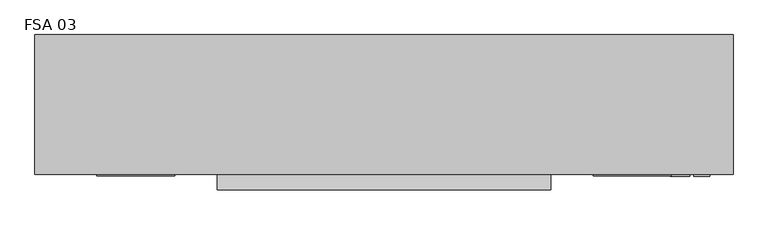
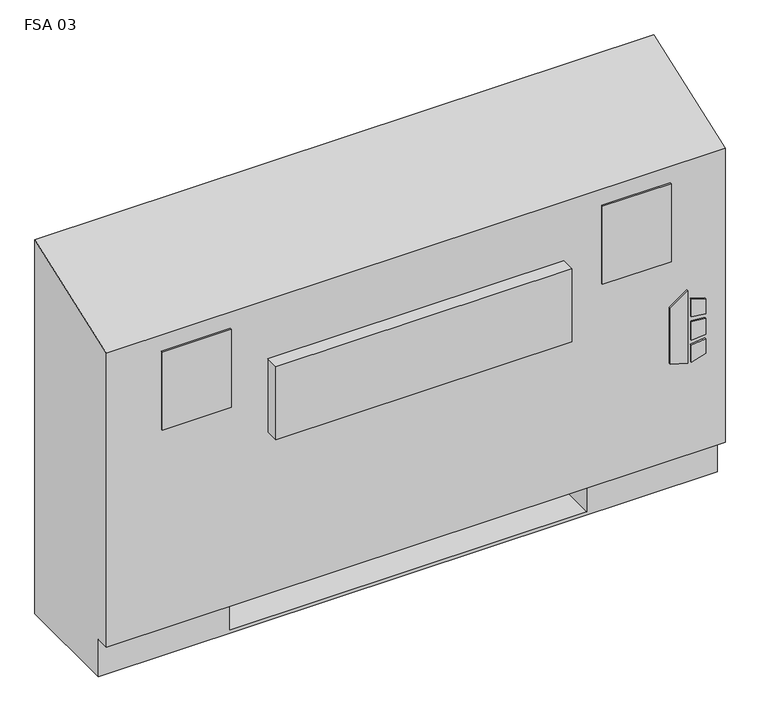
"""IFC4 building model written with IfcOpenShell, lengths in millimetres: proxy geometry, Vertical_Fan_Coil_Unit_-_FSA_-_IEC_-_4-Pipe_FS-FR_LH_2022 : FSA 03."""

from ifc_helpers import new_model, si_unit, point, frame, frame_2d, origin, place, context, project, spatial, polyline, circle_curve, trimmed, segment, composite_curve, outline, extrude, source, transform, mapped, element, save
from ifc_brep_helpers import plane_surface, revolved_surface, advanced_brep


def fsa_03_30d9e35f(model_context):
    return source(origin(), model_context, "Body", "SolidModel", [
        extrude(outline(polyline([(263.9480703, 620.7868862), (254.0, 652.9602728), (396.1709244, 652.9602728), (373.1489183, 620.7868862), (263.9480703, 620.7868862)])), frame((0.0, 12.7, 0.0), z_axis=(0.0, 1.0, 0.0), x_axis=(0.0, 0.0, 1.0)), (0.0, 0.0, 1.0), 3.175),
        extrude(outline(polyline([(342.9473557, 659.7186058), (339.7449632, 685.8), (368.9738042, 685.8), (377.0382193, 659.7186058), (342.9473557, 659.7186058)])), frame((0.0, 12.7, 0.0), z_axis=(0.0, 1.0, 0.0), x_axis=(0.0, 0.0, 1.0)), (0.0, 0.0, 1.0), 3.175),
        extrude(outline(polyline([(291.0838288, 685.8), (287.4183279, 659.7186058), (254.0, 659.7186058), (262.6342372, 685.8), (291.0838288, 685.8)])), frame((0.0, 12.7, 0.0), z_axis=(0.0, 1.0, 0.0), x_axis=(0.0, 0.0, 1.0)), (0.0, 0.0, 1.0), 3.175),
        extrude(outline(polyline([(330.3989903, 685.8), (332.6808166, 659.7186058), (296.7432681, 659.7186058), (299.4845331, 685.8), (330.3989903, 685.8)])), frame((0.0, 12.7, 0.0), z_axis=(0.0, 1.0, 0.0), x_axis=(0.0, 0.0, 1.0)), (0.0, 0.0, 1.0), 3.175),
        extrude(outline(polyline([(603.25, 223.266), (603.25, 81.534), (482.6, 81.534), (482.6, 223.266), (603.25, 223.266)])), frame((0.0, 0.0, 327.025), z_axis=(0.0, 0.0, 1.0), x_axis=(1.0, 0.0, 0.0)), (0.0, 0.0, 1.0), 260.35),
        extrude(outline(polyline([(-190.5, 12.7), (-317.5, 12.7), (-317.5, 15.875), (-190.5, 15.875), (-190.5, 12.7)])), frame((0.0, 0.0, 463.55), z_axis=(0.0, 0.0, 1.0), x_axis=(1.0, 0.0, 0.0)), (0.0, 0.0, 1.0), 152.4),
        extrude(outline(polyline([(622.3, 12.7), (495.3, 12.7), (495.3, 15.875), (622.3, 15.875), (622.3, 12.7)])), frame((0.0, 0.0, 463.55), z_axis=(0.0, 0.0, 1.0), x_axis=(1.0, 0.0, 0.0)), (0.0, 0.0, 1.0), 152.4),
        extrude(outline(composite_curve([segment(trimmed(circle_curve(frame_2d((-241.3, 130.175)), 9.525), [point((-250.825, 130.175))], [point((-231.775, 130.175))], False, "CARTESIAN"), True, "CONTINUOUS"), segment(trimmed(circle_curve(frame_2d((-241.3, 130.175)), 9.525), [point((-231.775, 130.175))], [point((-250.825, 130.175))], False, "CARTESIAN"), True, "CONTINUOUS")], self_intersect=False)), frame((0.0, 0.0, 101.6), z_axis=(0.0, 0.0, 1.0), x_axis=(1.0, 0.0, 0.0)), (0.0, 0.0, 1.0), 25.4),
        extrude(outline(polyline([(-342.9, 63.5), (-342.9, 196.85), (-177.8, 196.85), (-177.8, 63.5), (-342.9, 63.5)])), frame((0.0, 0.0, 127.0), z_axis=(0.0, 0.0, 1.0), x_axis=(1.0, 0.0, 0.0)), (0.0, 0.0, 1.0), 50.8),
        extrude(outline(polyline([(425.45, -9.525), (-120.65, -9.525), (-120.65, 15.875), (425.45, 15.875), (425.45, -9.525)])), frame((0.0, 0.0, 389.3009245), z_axis=(0.0, 0.0, 1.0), x_axis=(1.0, 0.0, 0.0)), (0.0, 0.0, 1.0), 142.875),
        extrude(outline(composite_curve([segment(trimmed(circle_curve(frame_2d((117.475, 472.44)), 7.9375), [point((117.475, 480.3775))], [point((117.475, 464.5025))], False, "CARTESIAN"), True, "CONTINUOUS"), segment(trimmed(circle_curve(frame_2d((117.475, 472.44)), 7.9375), [point((117.475, 464.5025))], [point((117.475, 480.3775))], False, "CARTESIAN"), True, "CONTINUOUS")], self_intersect=False)), frame((-228.6, 0.0, 0.0), z_axis=(1.0, 0.0, 0.0), x_axis=(0.0, 1.0, 0.0)), (0.0, 0.0, 1.0), 50.8),
        extrude(outline(composite_curve([segment(trimmed(circle_curve(frame_2d((164.0586, 445.897)), 7.9375), [point((164.0586, 453.8345))], [point((164.0586, 437.9595))], False, "CARTESIAN"), True, "CONTINUOUS"), segment(trimmed(circle_curve(frame_2d((164.0586, 445.897)), 7.9375), [point((164.0586, 437.9595))], [point((164.0586, 453.8345))], False, "CARTESIAN"), True, "CONTINUOUS")], self_intersect=False)), frame((-228.6, 0.0, 0.0), z_axis=(1.0, 0.0, 0.0), x_axis=(0.0, 1.0, 0.0)), (0.0, 0.0, 1.0), 50.8),
        extrude(outline(composite_curve([segment(trimmed(circle_curve(frame_2d((53.975, 416.56)), 7.9502), [point((53.975, 424.5102))], [point((53.975, 408.6098))], False, "CARTESIAN"), True, "CONTINUOUS"), segment(trimmed(circle_curve(frame_2d((53.975, 416.56)), 7.9502), [point((53.975, 408.6098))], [point((53.975, 424.5102))], False, "CARTESIAN"), True, "CONTINUOUS")], self_intersect=False)), frame((-228.6, 0.0, 0.0), z_axis=(1.0, 0.0, 0.0), x_axis=(0.0, 1.0, 0.0)), (0.0, 0.0, 1.0), 50.8),
        extrude(outline(composite_curve([segment(trimmed(circle_curve(frame_2d((130.175, 554.99)), 7.9502), [point((130.175, 562.9402))], [point((130.175, 547.0398))], False, "CARTESIAN"), True, "CONTINUOUS"), segment(trimmed(circle_curve(frame_2d((130.175, 554.99)), 7.9502), [point((130.175, 547.0398))], [point((130.175, 562.9402))], False, "CARTESIAN"), True, "CONTINUOUS")], self_intersect=False)), frame((-228.6, 0.0, 0.0), z_axis=(1.0, 0.0, 0.0), x_axis=(0.0, 1.0, 0.0)), (0.0, 0.0, 1.0), 50.8),
        advanced_brep(
        [(-419.1, 244.475, 0.0), (723.9, 244.475, 0.0), (723.9, 41.275, 0.0), (-419.1, 41.275, 0.0), (-419.1, 244.475, 730.25), (723.9, 244.475, 730.25), (482.6, 244.475, 73.025), (711.2, 244.475, 73.025), (711.2, 244.475, 654.05), (482.6, 244.475, 654.05), (482.6, 244.475, 414.8650565), (511.175, 244.475, 414.8650565), (511.175, 244.475, 385.2349435), (482.6, 244.475, 385.2349435), (482.6, 244.475, 287.3375), (511.175, 244.475, 287.3375), (511.175, 244.475, 258.7625), (482.6, 244.475, 258.7625), (482.6, 244.475, 141.2875), (511.175, 244.475, 141.2875), (511.175, 244.475, 112.7125), (482.6, 244.475, 112.7125), (-177.8, 244.475, 654.05), (-406.4, 244.475, 654.05), (-406.4, 244.475, 73.025), (-177.8, 244.475, 73.025), (-177.8, 244.475, 112.7125), (-206.375, 244.475, 112.7125), (-206.375, 244.475, 141.2875), (-177.8, 244.475, 141.2875), (-177.8, 244.475, 258.7625), (-206.375, 244.475, 258.7625), (-206.375, 244.475, 287.3375), (-177.8, 244.475, 287.3375), (-177.8, 244.475, 385.2349435), (-206.375, 244.475, 385.2349435), (-206.375, 244.475, 414.8650565), (-177.8, 244.475, 414.8650565), (500.8626, 244.475, 127.0), (489.7374, 244.475, 127.0), (500.8626, 244.475, 400.05), (489.7374, 244.475, 400.05), (500.8626, 244.475, 273.05), (489.7374, 244.475, 273.05), (-184.9374, 244.475, 127.0), (-196.0626, 244.475, 127.0), (-184.9374, 244.475, 273.05), (-196.0626, 244.475, 273.05), (-184.9374, 244.475, 400.05), (-196.0626, 244.475, 400.05), (-419.1, 41.275, 73.025), (-419.1, 15.875, 73.025), (-419.1, 15.875, 647.7), (723.9, 15.875, 73.025), (723.9, 15.875, 647.7), (723.9, 41.275, 73.025), (-177.8, 41.275, 73.025), (-177.8, 225.425, 73.025), (482.6, 225.425, 73.025), (482.6, 41.275, 73.025), (482.6, 41.275, 6.35), (-177.8, 41.275, 6.35), (482.6, 41.275, 654.05), (711.2, 41.275, 654.05), (711.2, 41.275, 73.025), (482.6, 41.275, 73.025), (-177.8, 41.275, 654.05), (-177.8, 41.275, 73.025), (-406.4, 41.275, 73.025), (-406.4, 41.275, 654.05), (482.6, 225.425, 73.025), (482.6, 238.125, 112.7125), (482.6, 238.125, 141.2875), (482.6, 238.125, 258.7625), (482.6, 238.125, 287.3375), (482.6, 238.125, 385.2349435), (482.6, 238.125, 414.8650565), (-177.8, 225.425, 73.025), (-177.8, 238.125, 414.8650565), (-177.8, 238.125, 385.2349435), (-177.8, 238.125, 287.3375), (-177.8, 238.125, 258.7625), (-177.8, 238.125, 141.2875), (-177.8, 238.125, 112.7125), (-177.8, 225.425, 6.35), (482.6, 225.425, 6.35), (511.175, 238.125, 112.7125), (511.175, 238.125, 141.2875), (489.7374, 238.125, 127.0), (500.8626, 238.125, 127.0), (511.175, 238.125, 258.7625), (511.175, 238.125, 287.3375), (489.7374, 238.125, 273.05), (500.8626, 238.125, 273.05), (511.175, 238.125, 385.2349435), (511.175, 238.125, 414.8650565), (489.7374, 238.125, 400.05), (500.8626, 238.125, 400.05), (-206.375, 238.125, 141.2875), (-206.375, 238.125, 112.7125), (-196.0626, 238.125, 127.0), (-184.9374, 238.125, 127.0), (-206.375, 238.125, 287.3375), (-206.375, 238.125, 258.7625), (-196.0626, 238.125, 273.05), (-184.9374, 238.125, 273.05), (-206.375, 238.125, 414.8650565), (-206.375, 238.125, 385.2349435), (-196.0626, 238.125, 400.05), (-184.9374, 238.125, 400.05)],
        [
            (0, 1),
            (1, 2),
            (2, 3),
            (3, 0),
            (0, 4),
            (4, 5),
            (5, 1),
            (6, 7),
            (7, 8),
            (8, 9),
            (9, 10),
            (10, 11),
            (11, 12),
            (12, 13),
            (13, 14),
            (14, 15),
            (15, 16),
            (16, 17),
            (17, 18),
            (18, 19),
            (19, 20),
            (20, 21),
            (21, 6),
            (22, 23),
            (23, 24),
            (24, 25),
            (25, 26),
            (26, 27),
            (27, 28),
            (28, 29),
            (29, 30),
            (30, 31),
            (31, 32),
            (32, 33),
            (33, 34),
            (34, 35),
            (35, 36),
            (36, 37),
            (37, 22),
            (38, 39, circle_curve(frame((495.3, 244.475, 127.0), z_axis=(0.0, -1.0, 0.0), x_axis=(-1.0, 0.0, 0.0)), 5.5626)),
            (39, 38, circle_curve(frame((495.3, 244.475, 127.0), z_axis=(0.0, -1.0, 0.0), x_axis=(-1.0, 0.0, 0.0)), 5.5626)),
            (40, 41, circle_curve(frame((495.3, 244.475, 400.05), z_axis=(0.0, -1.0, 0.0), x_axis=(-1.0, 0.0, 0.0)), 5.5626)),
            (41, 40, circle_curve(frame((495.3, 244.475, 400.05), z_axis=(0.0, -1.0, 0.0), x_axis=(-1.0, 0.0, 0.0)), 5.5626)),
            (42, 43, circle_curve(frame((495.3, 244.475, 273.05), z_axis=(0.0, -1.0, 0.0), x_axis=(-1.0, 0.0, 0.0)), 5.5626)),
            (43, 42, circle_curve(frame((495.3, 244.475, 273.05), z_axis=(0.0, -1.0, 0.0), x_axis=(-1.0, 0.0, 0.0)), 5.5626)),
            (44, 45, circle_curve(frame((-190.5, 244.475, 127.0), z_axis=(0.0, -1.0, 0.0), x_axis=(-1.0, 0.0, 0.0)), 5.5626)),
            (45, 44, circle_curve(frame((-190.5, 244.475, 127.0), z_axis=(0.0, -1.0, 0.0), x_axis=(-1.0, 0.0, 0.0)), 5.5626)),
            (46, 47, circle_curve(frame((-190.5, 244.475, 273.05), z_axis=(0.0, -1.0, 0.0), x_axis=(-1.0, 0.0, 0.0)), 5.5626)),
            (47, 46, circle_curve(frame((-190.5, 244.475, 273.05), z_axis=(0.0, -1.0, 0.0), x_axis=(-1.0, 0.0, 0.0)), 5.5626)),
            (48, 49, circle_curve(frame((-190.5, 244.475, 400.05), z_axis=(0.0, -1.0, 0.0), x_axis=(-1.0, 0.0, 0.0)), 5.5626)),
            (49, 48, circle_curve(frame((-190.5, 244.475, 400.05), z_axis=(0.0, -1.0, 0.0), x_axis=(-1.0, 0.0, 0.0)), 5.5626)),
            (3, 50),
            (50, 51),
            (51, 52),
            (52, 4),
            (51, 53),
            (53, 54),
            (54, 52),
            (5, 54),
            (53, 55),
            (55, 2),
            (50, 56),
            (56, 57),
            (57, 58),
            (58, 59),
            (59, 55),
            (59, 60),
            (60, 61),
            (61, 56),
            (62, 63),
            (63, 64),
            (64, 65),
            (65, 62),
            (66, 67),
            (67, 68),
            (68, 69),
            (69, 66),
            (65, 70),
            (70, 6),
            (21, 71),
            (71, 72),
            (72, 18),
            (17, 73),
            (73, 74),
            (74, 14),
            (13, 75),
            (75, 76),
            (76, 10),
            (9, 62),
            (64, 7),
            (63, 8),
            (69, 23),
            (22, 66),
            (68, 24),
            (67, 77),
            (77, 25),
            (37, 78),
            (78, 79),
            (79, 34),
            (33, 80),
            (80, 81),
            (81, 30),
            (29, 82),
            (82, 83),
            (83, 26),
            (57, 84),
            (84, 85),
            (85, 58),
            (85, 60),
            (84, 61),
            (71, 86),
            (86, 87),
            (87, 72),
            (88, 89, circle_curve(frame((495.3, 238.125, 127.0), z_axis=(0.0, 1.0, 0.0), x_axis=(-1.0, 0.0, 0.0)), 5.5626)),
            (89, 88, circle_curve(frame((495.3, 238.125, 127.0), z_axis=(0.0, 1.0, 0.0), x_axis=(-1.0, 0.0, 0.0)), 5.5626)),
            (73, 90),
            (90, 91),
            (91, 74),
            (92, 93, circle_curve(frame((495.3, 238.125, 273.05), z_axis=(0.0, 1.0, 0.0), x_axis=(-1.0, 0.0, 0.0)), 5.5626)),
            (93, 92, circle_curve(frame((495.3, 238.125, 273.05), z_axis=(0.0, 1.0, 0.0), x_axis=(-1.0, 0.0, 0.0)), 5.5626)),
            (75, 94),
            (94, 95),
            (95, 76),
            (96, 97, circle_curve(frame((495.3, 238.125, 400.05), z_axis=(0.0, 1.0, 0.0), x_axis=(-1.0, 0.0, 0.0)), 5.5626)),
            (97, 96, circle_curve(frame((495.3, 238.125, 400.05), z_axis=(0.0, 1.0, 0.0), x_axis=(-1.0, 0.0, 0.0)), 5.5626)),
            (98, 99),
            (99, 83),
            (82, 98),
            (100, 101, circle_curve(frame((-190.5, 238.125, 127.0), z_axis=(0.0, 1.0, 0.0), x_axis=(-1.0, 0.0, 0.0)), 5.5626)),
            (101, 100, circle_curve(frame((-190.5, 238.125, 127.0), z_axis=(0.0, 1.0, 0.0), x_axis=(-1.0, 0.0, 0.0)), 5.5626)),
            (102, 103),
            (103, 81),
            (80, 102),
            (104, 105, circle_curve(frame((-190.5, 238.125, 273.05), z_axis=(0.0, 1.0, 0.0), x_axis=(-1.0, 0.0, 0.0)), 5.5626)),
            (105, 104, circle_curve(frame((-190.5, 238.125, 273.05), z_axis=(0.0, 1.0, 0.0), x_axis=(-1.0, 0.0, 0.0)), 5.5626)),
            (106, 107),
            (107, 79),
            (78, 106),
            (108, 109, circle_curve(frame((-190.5, 238.125, 400.05), z_axis=(0.0, 1.0, 0.0), x_axis=(-1.0, 0.0, 0.0)), 5.5626)),
            (109, 108, circle_curve(frame((-190.5, 238.125, 400.05), z_axis=(0.0, 1.0, 0.0), x_axis=(-1.0, 0.0, 0.0)), 5.5626)),
            (87, 19),
            (86, 20),
            (91, 15),
            (90, 16),
            (95, 11),
            (94, 12),
            (28, 98),
            (99, 27),
            (32, 102),
            (103, 31),
            (36, 106),
            (107, 35),
            (88, 39),
            (38, 89),
            (96, 41),
            (40, 97),
            (92, 43),
            (42, 93),
            (100, 45),
            (44, 101),
            (104, 47),
            (46, 105),
            (108, 49),
            (48, 109),
        ],
        [
            plane_surface(frame((-419.1, 244.475, 0.0), z_axis=(0.0, 0.0, -1.0), x_axis=(1.0, 0.0, 0.0))),
            plane_surface(frame((723.9, 244.475, 730.25), z_axis=(0.0, 1.0, 0.0), x_axis=(0.0, 0.0, -1.0))),
            plane_surface(frame((-419.1, 244.475, 730.25), z_axis=(-1.0, 0.0, 0.0), x_axis=(0.0, 0.0, -1.0))),
            plane_surface(frame((-419.1, 15.875, 730.25), z_axis=(0.0, -1.0, 0.0), x_axis=(0.0, 0.0, -1.0))),
            plane_surface(frame((723.9, 15.875, 730.25), z_axis=(1.0, 0.0, 0.0), x_axis=(0.0, 0.0, -1.0))),
            plane_surface(frame((-419.1, 15.875, 73.025), z_axis=(0.0, 0.0, -1.0), x_axis=(1.0, 0.0, 0.0))),
            plane_surface(frame((-419.1, 41.275, 73.025), z_axis=(0.0, -1.0, 0.0), x_axis=(1.0, 0.0, 0.0))),
            plane_surface(frame((482.6, 41.275, 654.05), z_axis=(0.0, 1.0, 0.0), x_axis=(0.0, 0.0, -1.0))),
            plane_surface(frame((482.6, 41.275, 654.05), z_axis=(1.0, 0.0, 0.0), x_axis=(0.0, 1.0, 0.0))),
            plane_surface(frame((482.6, 41.275, 73.025), z_axis=(0.0, 0.0, 1.0), x_axis=(0.0, 1.0, 0.0))),
            plane_surface(frame((711.2, 41.275, 73.025), z_axis=(-1.0, 0.0, 0.0), x_axis=(0.0, 1.0, 0.0))),
            plane_surface(frame((711.2, 41.275, 654.05), z_axis=(0.0, 0.0, -1.0), x_axis=(0.0, 1.0, 0.0))),
            plane_surface(frame((-177.8, 41.275, 654.05), z_axis=(0.0, 0.0, -1.0), x_axis=(0.0, 1.0, 0.0))),
            plane_surface(frame((-406.4, 41.275, 654.05), z_axis=(1.0, 0.0, 0.0), x_axis=(0.0, 1.0, 0.0))),
            plane_surface(frame((-406.4, 41.275, 73.025), z_axis=(0.0, 0.0, 1.0), x_axis=(0.0, 1.0, 0.0))),
            plane_surface(frame((-177.8, 41.275, 73.025), z_axis=(-1.0, 0.0, 0.0), x_axis=(0.0, 1.0, 0.0))),
            plane_surface(frame((482.6, 225.425, 73.025), z_axis=(0.0, -1.0, 0.0), x_axis=(0.0, 0.0, -1.0))),
            plane_surface(frame((482.6, 225.425, 73.025), z_axis=(-1.0, 0.0, 0.0), x_axis=(0.0, -1.0, 0.0))),
            plane_surface(frame((482.6, 225.425, 6.35), z_axis=(0.0, 0.0, 1.0), x_axis=(0.0, -1.0, 0.0))),
            plane_surface(frame((-177.8, 225.425, 6.35), z_axis=(1.0, 0.0, 0.0), x_axis=(0.0, -1.0, 0.0))),
            plane_surface(frame((511.175, 238.125, 141.2875), z_axis=(0.0, -1.0, 0.0), x_axis=(-1.0, 0.0, 0.0))),
            plane_surface(frame((482.6, 244.475, 141.2875), z_axis=(0.0, 0.0, 1.0), x_axis=(0.0, -1.0, 0.0))),
            plane_surface(frame((511.175, 244.475, 141.2875), z_axis=(1.0, 0.0, 0.0), x_axis=(0.0, -1.0, 0.0))),
            plane_surface(frame((511.175, 244.475, 112.7125), z_axis=(0.0, 0.0, -1.0), x_axis=(0.0, -1.0, 0.0))),
            plane_surface(frame((482.6, 244.475, 287.3375), z_axis=(0.0, 0.0, 1.0), x_axis=(0.0, -1.0, 0.0))),
            plane_surface(frame((511.175, 244.475, 287.3375), z_axis=(1.0, 0.0, 0.0), x_axis=(0.0, -1.0, 0.0))),
            plane_surface(frame((511.175, 244.475, 258.7625), z_axis=(0.0, 0.0, -1.0), x_axis=(0.0, -1.0, 0.0))),
            plane_surface(frame((482.6, 244.475, 414.8650565), z_axis=(0.0, 0.0, 1.0), x_axis=(0.0, -1.0, 0.0))),
            plane_surface(frame((511.175, 244.475, 414.8650565), z_axis=(1.0, 0.0, 0.0), x_axis=(0.0, -1.0, 0.0))),
            plane_surface(frame((511.175, 244.475, 385.2349435), z_axis=(0.0, 0.0, -1.0), x_axis=(0.0, -1.0, 0.0))),
            plane_surface(frame((-206.375, 244.475, 141.2875), z_axis=(0.0, 0.0, 1.0), x_axis=(0.0, -1.0, 0.0))),
            plane_surface(frame((-177.8, 244.475, 112.7125), z_axis=(0.0, 0.0, -1.0), x_axis=(0.0, -1.0, 0.0))),
            plane_surface(frame((-206.375, 244.475, 112.7125), z_axis=(-1.0, 0.0, 0.0), x_axis=(0.0, -1.0, 0.0))),
            plane_surface(frame((-206.375, 244.475, 287.3375), z_axis=(0.0, 0.0, 1.0), x_axis=(0.0, -1.0, 0.0))),
            plane_surface(frame((-177.8, 244.475, 258.7625), z_axis=(0.0, 0.0, -1.0), x_axis=(0.0, -1.0, 0.0))),
            plane_surface(frame((-206.375, 244.475, 258.7625), z_axis=(-1.0, 0.0, 0.0), x_axis=(0.0, -1.0, 0.0))),
            plane_surface(frame((-206.375, 244.475, 414.8650565), z_axis=(0.0, 0.0, 1.0), x_axis=(0.0, -1.0, 0.0))),
            plane_surface(frame((-177.8, 244.475, 385.2349435), z_axis=(0.0, 0.0, -1.0), x_axis=(0.0, -1.0, 0.0))),
            plane_surface(frame((-206.375, 244.475, 385.2349435), z_axis=(-1.0, 0.0, 0.0), x_axis=(0.0, -1.0, 0.0))),
            revolved_surface(polyline([(489.73740000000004, 238.125, 127.0), (489.73740000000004, 244.475, 127.0)]), (495.3, 244.475, 127.0), (0.0, -1.0, 0.0)),
            revolved_surface(polyline([(489.73740000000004, 238.125, 400.05), (489.73740000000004, 244.475, 400.05)]), (495.3, 244.475, 400.05), (0.0, -1.0, 0.0)),
            revolved_surface(polyline([(489.73740000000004, 238.125, 273.05), (489.73740000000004, 244.475, 273.05)]), (495.3, 244.475, 273.05), (0.0, -1.0, 0.0)),
            revolved_surface(polyline([(-196.0626, 238.125, 127.0), (-196.0626, 244.475, 127.0)]), (-190.5, 244.475, 127.0), (0.0, -1.0, 0.0)),
            revolved_surface(polyline([(-196.0626, 238.125, 273.05), (-196.0626, 244.475, 273.05)]), (-190.5, 244.475, 273.05), (0.0, -1.0, 0.0)),
            revolved_surface(polyline([(-196.0626, 238.125, 400.05), (-196.0626, 244.475, 400.05)]), (-190.5, 244.475, 400.05), (0.0, -1.0, 0.0)),
            plane_surface(frame((-419.1, 244.475, 730.25), z_axis=(0.0, -0.33964446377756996, 0.9405538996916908), x_axis=(1.0, 0.0, 0.0))),
        ],
        [
            (0, [[1, 2, 3, 4]]),
            (1, [[-1, 5, 6, 7], [8, 9, 10, 11, 12, 13, 14, 15, 16, 17, 18, 19, 20, 21, 22, 23], [24, 25, 26, 27, 28, 29, 30, 31, 32, 33, 34, 35, 36, 37, 38, 39], [40, 41], [42, 43], [44, 45], [46, 47], [48, 49], [50, 51]]),
            (2, [[-5, -4, 52, 53, 54, 55]]),
            (3, [[56, 57, 58, -54]]),
            (4, [[-7, 59, -57, 60, 61, -2]]),
            (5, [[-53, 62, 63, 64, 65, 66, -60, -56]]),
            (6, [[-3, -61, -66, 67, 68, 69, -62, -52]]),
            (7, [[70, 71, 72, 73]]),
            (7, [[74, 75, 76, 77]]),
            (8, [[-73, 78, 79, -23, 80, 81, 82, -19, 83, 84, 85, -15, 86, 87, 88, -11, 89]]),
            (9, [[-72, 90, -8, -79, -78]]),
            (10, [[-71, 91, -9, -90]]),
            (11, [[-70, -89, -10, -91]]),
            (12, [[-77, 92, -24, 93]]),
            (13, [[-76, 94, -25, -92]]),
            (14, [[-75, 95, 96, -26, -94]]),
            (15, [[-74, -93, -39, 97, 98, 99, -35, 100, 101, 102, -31, 103, 104, 105, -27, -96, -95]]),
            (16, [[-64, 106, 107, 108]]),
            (17, [[-108, 109, -67, -65]]),
            (18, [[-107, 110, -68, -109]]),
            (19, [[-106, -63, -69, -110]]),
            (20, [[111, 112, 113, -81], [114, 115]]),
            (20, [[116, 117, 118, -84], [119, 120]]),
            (20, [[121, 122, 123, -87], [124, 125]]),
            (20, [[126, 127, -104, 128], [129, 130]]),
            (20, [[131, 132, -101, 133], [134, 135]]),
            (20, [[136, 137, -98, 138], [139, 140]]),
            (21, [[-113, 141, -20, -82]]),
            (22, [[-112, 142, -21, -141]]),
            (23, [[-111, -80, -22, -142]]),
            (24, [[-118, 143, -16, -85]]),
            (25, [[-117, 144, -17, -143]]),
            (26, [[-116, -83, -18, -144]]),
            (27, [[-123, 145, -12, -88]]),
            (28, [[-122, 146, -13, -145]]),
            (29, [[-121, -86, -14, -146]]),
            (30, [[-128, -103, -30, 147]]),
            (31, [[-127, 148, -28, -105]]),
            (32, [[-126, -147, -29, -148]]),
            (33, [[-133, -100, -34, 149]]),
            (34, [[-132, 150, -32, -102]]),
            (35, [[-131, -149, -33, -150]]),
            (36, [[-138, -97, -38, 151]]),
            (37, [[-137, 152, -36, -99]]),
            (38, [[-136, -151, -37, -152]]),
            (39, [[153, -40, 154, -114]]),
            (39, [[-153, -115, -154, -41]]),
            (40, [[155, -42, 156, -124]]),
            (40, [[-155, -125, -156, -43]]),
            (41, [[157, -44, 158, -119]]),
            (41, [[-157, -120, -158, -45]]),
            (42, [[159, -46, 160, -129]]),
            (42, [[-159, -130, -160, -47]]),
            (43, [[161, -48, 162, -134]]),
            (43, [[-161, -135, -162, -49]]),
            (44, [[163, -50, 164, -139]]),
            (44, [[-163, -140, -164, -51]]),
            (45, [[-6, -55, -58, -59]]),
        ],
    ),
    ])


if __name__ == "__main__":
    model = new_model("IFC4")
    model_context = context("Model", 3, world=origin())
    ifc_project = project(units=[si_unit("LENGTHUNIT", "METRE", prefix="MILLI")], contexts=[model_context])
    site = spatial("IfcSite", under=ifc_project)
    building = spatial("IfcBuilding", under=site)
    placement = place(None, origin())
    fsa_03_shape = fsa_03_30d9e35f(model_context)
    element("IfcBuildingElementProxy", 1, Name="Vertical_Fan_Coil_Unit_-_FSA_-_IEC_-_4-Pipe_FS-FR_LH_2022 : FSA 03", ObjectType="Vertical_Fan_Coil_Unit_-_FSA_-_IEC_-_4-Pipe_FS-FR_LH_2022 : FSA 03", at=placement, inside=building, context=model_context, shape_type="MappedRepresentation", body=[
        mapped(fsa_03_shape, transform((0.0, 0.0, 0.0), x_axis=(1.0, 0.0, 0.0), y_axis=(0.0, 1.0, 0.0), z_axis=(0.0, 0.0, 1.0))),
    ])
    save(model, "model.ifc")
